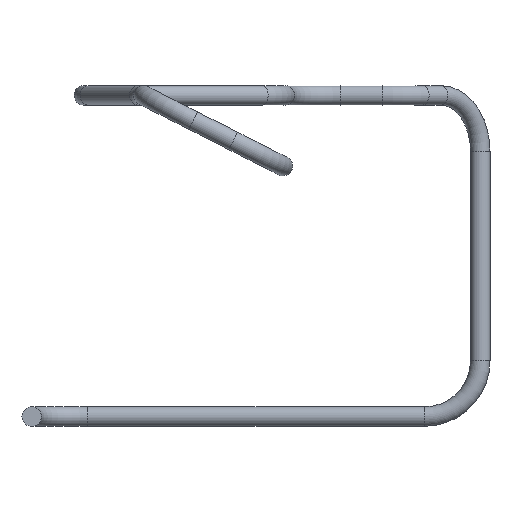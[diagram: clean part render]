
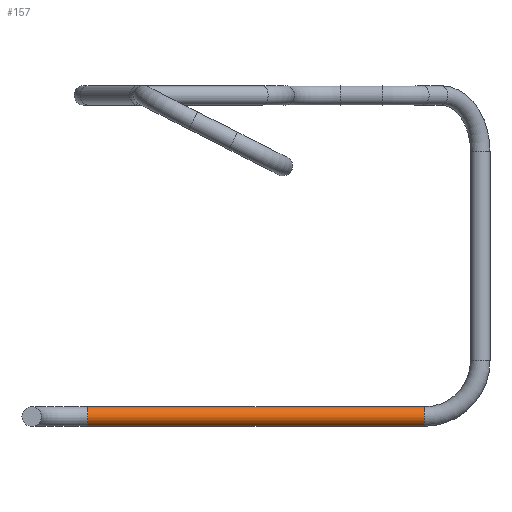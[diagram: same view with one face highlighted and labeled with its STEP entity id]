
A CAD part, front view. The second image highlights one B-rep face of the part: STEP entity #157.
In plain terms, the highlighted cylindrical face has radius 0.525 mm (diameter 1.05 mm), a full revolution.
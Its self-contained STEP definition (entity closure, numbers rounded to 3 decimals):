
#65 = TOROIDAL_SURFACE('',#66,3.,0.525);
#66 = AXIS2_PLACEMENT_3D('',#67,#68,#69);
#67 = CARTESIAN_POINT('',(12.5,44.65,-20.762));
#68 = DIRECTION('',(-0.,0.,-1.));
#69 = DIRECTION('',(-1.,0.,0.));
#108 = VERTEX_POINT('',#109);
#109 = CARTESIAN_POINT('',(12.5,47.65,-20.237));
#130 = EDGE_CURVE('',#108,#108,#131,.T.);
#131 = SURFACE_CURVE('',#132,(#137,#144),.PCURVE_S1.);
#132 = CIRCLE('',#133,0.525);
#133 = AXIS2_PLACEMENT_3D('',#134,#135,#136);
#134 = CARTESIAN_POINT('',(12.5,47.65,-20.762));
#135 = DIRECTION('',(-1.,0.,0.));
#136 = DIRECTION('',(0.,1.,0.));
#137 = PCURVE('',#65,#138);
#138 = DEFINITIONAL_REPRESENTATION('',(#139),#143);
#139 = LINE('',#140,#141);
#140 = CARTESIAN_POINT('',(1.571,0.));
#141 = VECTOR('',#142,1.);
#142 = DIRECTION('',(0.,1.));
#143 = ( GEOMETRIC_REPRESENTATION_CONTEXT(2) 
PARAMETRIC_REPRESENTATION_CONTEXT() REPRESENTATION_CONTEXT('2D SPACE',''
  ) );
#144 = PCURVE('',#145,#150);
#145 = CYLINDRICAL_SURFACE('',#146,0.525);
#146 = AXIS2_PLACEMENT_3D('',#147,#148,#149);
#147 = CARTESIAN_POINT('',(12.5,47.65,-20.762));
#148 = DIRECTION('',(1.,0.,0.));
#149 = DIRECTION('',(0.,0.,1.));
#150 = DEFINITIONAL_REPRESENTATION('',(#151),#154);
#151 = B_SPLINE_CURVE_WITH_KNOTS('',1,(#152,#153),.UNSPECIFIED.,.F.,.F.,
  (2,2),(4.712,10.996),.PIECEWISE_BEZIER_KNOTS.);
#152 = CARTESIAN_POINT('',(6.283,0.));
#153 = CARTESIAN_POINT('',(0.,0.));
#154 = ( GEOMETRIC_REPRESENTATION_CONTEXT(2) 
PARAMETRIC_REPRESENTATION_CONTEXT() REPRESENTATION_CONTEXT('2D SPACE',''
  ) );
#157 = ADVANCED_FACE('',(#158),#145,.T.);
#158 = FACE_BOUND('',#159,.T.);
#159 = EDGE_LOOP('',(#160,#182,#208,#209));
#160 = ORIENTED_EDGE('',*,*,#161,.T.);
#161 = EDGE_CURVE('',#108,#162,#164,.T.);
#162 = VERTEX_POINT('',#163);
#163 = CARTESIAN_POINT('',(30.6,47.65,-20.237));
#164 = SEAM_CURVE('',#165,(#169,#175),.PCURVE_S1.);
#165 = LINE('',#166,#167);
#166 = CARTESIAN_POINT('',(12.5,47.65,-20.237));
#167 = VECTOR('',#168,1.);
#168 = DIRECTION('',(1.,0.,0.));
#169 = PCURVE('',#145,#170);
#170 = DEFINITIONAL_REPRESENTATION('',(#171),#174);
#171 = B_SPLINE_CURVE_WITH_KNOTS('',1,(#172,#173),.UNSPECIFIED.,.F.,.F.,
  (2,2),(0.,18.1),.PIECEWISE_BEZIER_KNOTS.);
#172 = CARTESIAN_POINT('',(6.283,0.));
#173 = CARTESIAN_POINT('',(6.283,18.1));
#174 = ( GEOMETRIC_REPRESENTATION_CONTEXT(2) 
PARAMETRIC_REPRESENTATION_CONTEXT() REPRESENTATION_CONTEXT('2D SPACE',''
  ) );
#175 = PCURVE('',#145,#176);
#176 = DEFINITIONAL_REPRESENTATION('',(#177),#181);
#177 = LINE('',#178,#179);
#178 = CARTESIAN_POINT('',(0.,0.));
#179 = VECTOR('',#180,1.);
#180 = DIRECTION('',(0.,1.));
#181 = ( GEOMETRIC_REPRESENTATION_CONTEXT(2) 
PARAMETRIC_REPRESENTATION_CONTEXT() REPRESENTATION_CONTEXT('2D SPACE',''
  ) );
#182 = ORIENTED_EDGE('',*,*,#183,.F.);
#183 = EDGE_CURVE('',#162,#162,#184,.T.);
#184 = SURFACE_CURVE('',#185,(#190,#197),.PCURVE_S1.);
#185 = CIRCLE('',#186,0.525);
#186 = AXIS2_PLACEMENT_3D('',#187,#188,#189);
#187 = CARTESIAN_POINT('',(30.6,47.65,-20.762));
#188 = DIRECTION('',(1.,0.,-0.));
#189 = DIRECTION('',(0.,0.,1.));
#190 = PCURVE('',#145,#191);
#191 = DEFINITIONAL_REPRESENTATION('',(#192),#196);
#192 = LINE('',#193,#194);
#193 = CARTESIAN_POINT('',(0.,18.1));
#194 = VECTOR('',#195,1.);
#195 = DIRECTION('',(1.,0.));
#196 = ( GEOMETRIC_REPRESENTATION_CONTEXT(2) 
PARAMETRIC_REPRESENTATION_CONTEXT() REPRESENTATION_CONTEXT('2D SPACE',''
  ) );
#197 = PCURVE('',#198,#203);
#198 = TOROIDAL_SURFACE('',#199,3.,0.525);
#199 = AXIS2_PLACEMENT_3D('',#200,#201,#202);
#200 = CARTESIAN_POINT('',(30.6,47.65,-17.762));
#201 = DIRECTION('',(0.,-1.,-0.));
#202 = DIRECTION('',(0.,0.,-1.));
#203 = DEFINITIONAL_REPRESENTATION('',(#204),#207);
#204 = B_SPLINE_CURVE_WITH_KNOTS('',1,(#205,#206),.UNSPECIFIED.,.F.,.F.,
  (2,2),(0.,6.283),.PIECEWISE_BEZIER_KNOTS.);
#205 = CARTESIAN_POINT('',(0.,9.425));
#206 = CARTESIAN_POINT('',(0.,3.142));
#207 = ( GEOMETRIC_REPRESENTATION_CONTEXT(2) 
PARAMETRIC_REPRESENTATION_CONTEXT() REPRESENTATION_CONTEXT('2D SPACE',''
  ) );
#208 = ORIENTED_EDGE('',*,*,#161,.F.);
#209 = ORIENTED_EDGE('',*,*,#130,.F.);
